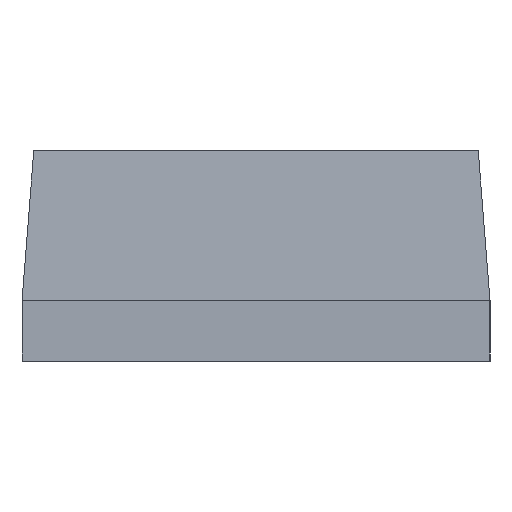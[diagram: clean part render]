
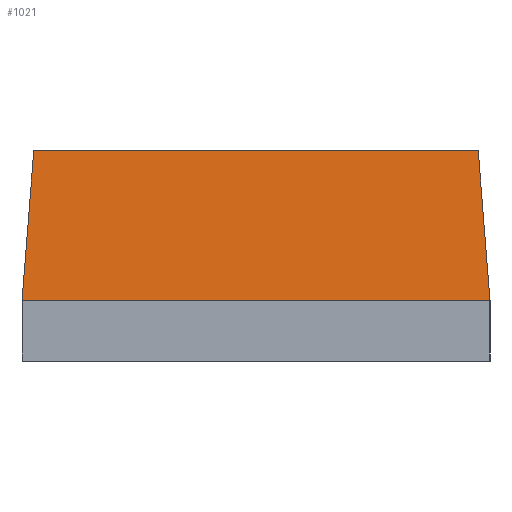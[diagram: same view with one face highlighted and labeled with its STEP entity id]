
A CAD part, left-side view. The second image highlights one B-rep face of the part: STEP entity #1021.
In plain terms, the highlighted planar face has unit normal (-0.997, 0, 0.079).
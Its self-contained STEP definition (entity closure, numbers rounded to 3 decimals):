
#653=CARTESIAN_POINT('',(0.,9.01,1.3));
#654=VERTEX_POINT('',#653);
#663=CARTESIAN_POINT('',(0.,10.02,1.3));
#664=VERTEX_POINT('',#663);
#665=CARTESIAN_POINT('',(0.,9.01,1.3));
#666=DIRECTION('',(0.,1.,0.));
#667=VECTOR('',#666,1.01);
#668=LINE('',#665,#667);
#669=EDGE_CURVE('',#654,#664,#668,.T.);
#901=CARTESIAN_POINT('',(0.252,0.252,4.5));
#902=VERTEX_POINT('',#901);
#919=CARTESIAN_POINT('',(0.252,9.768,4.5));
#920=VERTEX_POINT('',#919);
#927=CARTESIAN_POINT('',(0.252,9.768,4.5));
#928=DIRECTION('',(-0.,-1.,-0.));
#929=VECTOR('',#928,9.516);
#930=LINE('',#927,#929);
#931=EDGE_CURVE('',#920,#902,#930,.T.);
#956=CARTESIAN_POINT('',(0.,10.02,1.3));
#957=DIRECTION('',(0.078,-0.078,0.994));
#958=VECTOR('',#957,3.22);
#959=LINE('',#956,#958);
#960=EDGE_CURVE('',#664,#920,#959,.T.);
#972=CARTESIAN_POINT('',(-0.,-0.,1.3));
#973=VERTEX_POINT('',#972);
#987=CARTESIAN_POINT('',(0.252,0.252,4.5));
#988=DIRECTION('',(-0.078,-0.078,-0.994));
#989=VECTOR('',#988,3.22);
#990=LINE('',#987,#989);
#991=EDGE_CURVE('',#902,#973,#990,.T.);
#996=CARTESIAN_POINT('',(0.,5.01,1.3));
#997=DIRECTION('',(0.997,0.,-0.079));
#998=DIRECTION('',(0.,1.,0.));
#999=AXIS2_PLACEMENT_3D('',#996,#997,#998);
#1000=PLANE('',#999);
#1001=ORIENTED_EDGE('',*,*,#991,.F.);
#1002=ORIENTED_EDGE('',*,*,#931,.F.);
#1003=ORIENTED_EDGE('',*,*,#960,.F.);
#1004=ORIENTED_EDGE('',*,*,#669,.F.);
#1005=CARTESIAN_POINT('',(0.,1.01,1.3));
#1006=VERTEX_POINT('',#1005);
#1007=CARTESIAN_POINT('',(0.,1.01,1.3));
#1008=DIRECTION('',(0.,1.,0.));
#1009=VECTOR('',#1008,8.);
#1010=LINE('',#1007,#1009);
#1011=EDGE_CURVE('',#1006,#654,#1010,.T.);
#1012=ORIENTED_EDGE('',*,*,#1011,.F.);
#1013=CARTESIAN_POINT('',(0.,0.,1.3));
#1014=DIRECTION('',(0.,1.,0.));
#1015=VECTOR('',#1014,1.01);
#1016=LINE('',#1013,#1015);
#1017=EDGE_CURVE('',#973,#1006,#1016,.T.);
#1018=ORIENTED_EDGE('',*,*,#1017,.F.);
#1019=EDGE_LOOP('',(#1001,#1002,#1003,#1004,#1012,#1018));
#1020=FACE_BOUND('',#1019,.T.);
#1021=ADVANCED_FACE('',(#1020),#1000,.F.);
